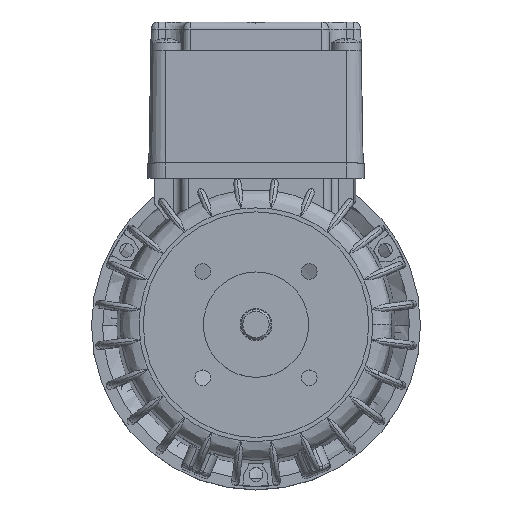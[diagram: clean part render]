
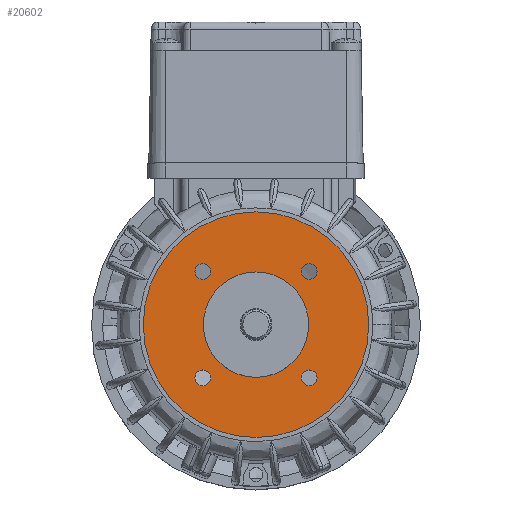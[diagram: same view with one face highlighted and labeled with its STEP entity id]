
A CAD part, top view. The second image highlights one B-rep face of the part: STEP entity #20602.
In plain terms, the highlighted planar face has unit normal (0, 0, -1).
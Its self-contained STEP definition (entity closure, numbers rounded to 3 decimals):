
#406 = CARTESIAN_POINT ( 'NONE',  ( -16.242, -14.142, -6. ) ) ;
#557 = CARTESIAN_POINT ( 'NONE',  ( -30., 0., -6. ) ) ;
#1909 = CARTESIAN_POINT ( 'NONE',  ( -12.042, -14.142, -6. ) ) ;
#2219 = CIRCLE ( 'NONE', #61576, 2.1 ) ;
#3162 = AXIS2_PLACEMENT_3D ( 'NONE', #9651, #44291, #14704 ) ;
#4971 = DIRECTION ( 'NONE',  ( 1., 0., 0. ) ) ;
#5027 = DIRECTION ( 'NONE',  ( 0., 0., 1. ) ) ;
#5030 = AXIS2_PLACEMENT_3D ( 'NONE', #28676, #28635, #28617 ) ;
#5044 = CARTESIAN_POINT ( 'NONE',  ( 14.142, 14.142, -6. ) ) ;
#6261 = CARTESIAN_POINT ( 'NONE',  ( 0., 0., -6. ) ) ;
#6883 = EDGE_CURVE ( 'NONE', #50258, #57351, #36805, .T. ) ;
#7792 = EDGE_CURVE ( 'NONE', #57997, #39685, #42530, .T. ) ;
#9500 = ORIENTED_EDGE ( 'NONE', *, *, #24018, .T. ) ;
#9651 = CARTESIAN_POINT ( 'NONE',  ( -14.142, -14.142, -6. ) ) ;
#11299 = DIRECTION ( 'NONE',  ( 1., 0., 0. ) ) ;
#12619 = ORIENTED_EDGE ( 'NONE', *, *, #7792, .T. ) ;
#13016 = DIRECTION ( 'NONE',  ( 1., 0., 0. ) ) ;
#13181 = DIRECTION ( 'NONE',  ( 0., 0., 1. ) ) ;
#13232 = CARTESIAN_POINT ( 'NONE',  ( -14.142, -14.142, -6. ) ) ;
#14188 = CIRCLE ( 'NONE', #35325, 2.1 ) ;
#14303 = EDGE_CURVE ( 'NONE', #32270, #18088, #14188, .T. ) ;
#14704 = DIRECTION ( 'NONE',  ( 1., 0., 0. ) ) ;
#16153 = CARTESIAN_POINT ( 'NONE',  ( 16.242, -14.142, -6. ) ) ;
#16201 = AXIS2_PLACEMENT_3D ( 'NONE', #57328, #56965, #56598 ) ;
#16889 = CIRCLE ( 'NONE', #32453, 30. ) ;
#17421 = CIRCLE ( 'NONE', #58398, 2.1 ) ;
#17555 = CARTESIAN_POINT ( 'NONE',  ( 14., 0., -6. ) ) ;
#17898 = ORIENTED_EDGE ( 'NONE', *, *, #48515, .T. ) ;
#18088 = VERTEX_POINT ( 'NONE', #57446 ) ;
#18675 = ORIENTED_EDGE ( 'NONE', *, *, #42415, .T. ) ;
#18874 = VERTEX_POINT ( 'NONE', #27124 ) ;
#19009 = CIRCLE ( 'NONE', #59502, 14. ) ;
#19520 = DIRECTION ( 'NONE',  ( 0., 0., 1. ) ) ;
#20602 = ADVANCED_FACE ( 'NONE', ( #28272, #29565, #22903, #32536, #35179, #33686 ), #26075, .T. ) ;
#22903 = FACE_BOUND ( 'NONE', #47316, .T. ) ;
#22984 = VERTEX_POINT ( 'NONE', #1909 ) ;
#23171 = ORIENTED_EDGE ( 'NONE', *, *, #14303, .T. ) ;
#23716 = AXIS2_PLACEMENT_3D ( 'NONE', #37223, #37008, #36798 ) ;
#24018 = EDGE_CURVE ( 'NONE', #43575, #18874, #45641, .T. ) ;
#24288 = EDGE_LOOP ( 'NONE', ( #17898, #12619 ) ) ;
#24361 = VERTEX_POINT ( 'NONE', #16153 ) ;
#24918 = DIRECTION ( 'NONE',  ( -1., 0., 0. ) ) ;
#24996 = DIRECTION ( 'NONE',  ( 0., 0., -1. ) ) ;
#25070 = CARTESIAN_POINT ( 'NONE',  ( 0., 14.75, -6. ) ) ;
#26075 = PLANE ( 'NONE',  #40990 ) ;
#26991 = CIRCLE ( 'NONE', #47570, 2.1 ) ;
#27124 = CARTESIAN_POINT ( 'NONE',  ( 12.042, 14.142, -6. ) ) ;
#27505 = EDGE_CURVE ( 'NONE', #24361, #33835, #17421, .T. ) ;
#28155 = EDGE_CURVE ( 'NONE', #18874, #43575, #45310, .T. ) ;
#28272 = FACE_BOUND ( 'NONE', #62338, .T. ) ;
#28617 = DIRECTION ( 'NONE',  ( 1., 0., 0. ) ) ;
#28635 = DIRECTION ( 'NONE',  ( 0., 0., 1. ) ) ;
#28676 = CARTESIAN_POINT ( 'NONE',  ( 14.142, 14.142, -6. ) ) ;
#29565 = FACE_OUTER_BOUND ( 'NONE', #24288, .T. ) ;
#31392 = ORIENTED_EDGE ( 'NONE', *, *, #32350, .T. ) ;
#31518 = CIRCLE ( 'NONE', #34151, 2.1 ) ;
#32270 = VERTEX_POINT ( 'NONE', #42353 ) ;
#32350 = EDGE_CURVE ( 'NONE', #18088, #32270, #2219, .T. ) ;
#32453 = AXIS2_PLACEMENT_3D ( 'NONE', #6261, #40989, #11299 ) ;
#32536 = FACE_BOUND ( 'NONE', #57861, .T. ) ;
#32721 = ORIENTED_EDGE ( 'NONE', *, *, #59229, .T. ) ;
#33686 = FACE_BOUND ( 'NONE', #42863, .T. ) ;
#33835 = VERTEX_POINT ( 'NONE', #61729 ) ;
#34151 = AXIS2_PLACEMENT_3D ( 'NONE', #13232, #13181, #13016 ) ;
#34239 = ORIENTED_EDGE ( 'NONE', *, *, #28155, .T. ) ;
#34367 = DIRECTION ( 'NONE',  ( 1., 0., 0. ) ) ;
#34380 = DIRECTION ( 'NONE',  ( 0., 0., 1. ) ) ;
#34435 = CARTESIAN_POINT ( 'NONE',  ( 14.142, -14.142, -6. ) ) ;
#35179 = FACE_BOUND ( 'NONE', #62817, .T. ) ;
#35325 = AXIS2_PLACEMENT_3D ( 'NONE', #41392, #41602, #46833 ) ;
#36798 = DIRECTION ( 'NONE',  ( -1., 0., 0. ) ) ;
#36805 = CIRCLE ( 'NONE', #23716, 14. ) ;
#37008 = DIRECTION ( 'NONE',  ( 0., 0., 1. ) ) ;
#37223 = CARTESIAN_POINT ( 'NONE',  ( 0., 0., -6. ) ) ;
#37928 = VERTEX_POINT ( 'NONE', #406 ) ;
#38541 = DIRECTION ( 'NONE',  ( 1., 0., 0. ) ) ;
#38555 = DIRECTION ( 'NONE',  ( 0., 0., 1. ) ) ;
#38626 = CARTESIAN_POINT ( 'NONE',  ( -14.142, 14.142, -6. ) ) ;
#39685 = VERTEX_POINT ( 'NONE', #42408 ) ;
#40989 = DIRECTION ( 'NONE',  ( 0., 0., -1. ) ) ;
#40990 = AXIS2_PLACEMENT_3D ( 'NONE', #25070, #24996, #24918 ) ;
#41392 = CARTESIAN_POINT ( 'NONE',  ( -14.142, 14.142, -6. ) ) ;
#41602 = DIRECTION ( 'NONE',  ( 0., 0., 1. ) ) ;
#42353 = CARTESIAN_POINT ( 'NONE',  ( -12.042, 14.142, -6. ) ) ;
#42408 = CARTESIAN_POINT ( 'NONE',  ( 30., 0., -6. ) ) ;
#42415 = EDGE_CURVE ( 'NONE', #33835, #24361, #26991, .T. ) ;
#42530 = CIRCLE ( 'NONE', #16201, 30. ) ;
#42863 = EDGE_LOOP ( 'NONE', ( #9500, #34239 ) ) ;
#43575 = VERTEX_POINT ( 'NONE', #51515 ) ;
#44191 = EDGE_CURVE ( 'NONE', #22984, #37928, #31518, .T. ) ;
#44233 = CIRCLE ( 'NONE', #3162, 2.1 ) ;
#44291 = DIRECTION ( 'NONE',  ( 0., 0., 1. ) ) ;
#45310 = CIRCLE ( 'NONE', #57729, 2.1 ) ;
#45641 = CIRCLE ( 'NONE', #5030, 2.1 ) ;
#46833 = DIRECTION ( 'NONE',  ( 1., 0., 0. ) ) ;
#47316 = EDGE_LOOP ( 'NONE', ( #58120, #56557 ) ) ;
#47570 = AXIS2_PLACEMENT_3D ( 'NONE', #57786, #57672, #57722 ) ;
#48515 = EDGE_CURVE ( 'NONE', #39685, #57997, #16889, .T. ) ;
#48971 = CARTESIAN_POINT ( 'NONE',  ( 0., 0., -6. ) ) ;
#50258 = VERTEX_POINT ( 'NONE', #52755 ) ;
#51515 = CARTESIAN_POINT ( 'NONE',  ( 16.242, 14.142, -6. ) ) ;
#52080 = ORIENTED_EDGE ( 'NONE', *, *, #44191, .T. ) ;
#52755 = CARTESIAN_POINT ( 'NONE',  ( -14., 0., -6. ) ) ;
#52888 = ORIENTED_EDGE ( 'NONE', *, *, #27505, .T. ) ;
#53646 = DIRECTION ( 'NONE',  ( -1., 0., 0. ) ) ;
#53975 = EDGE_CURVE ( 'NONE', #57351, #50258, #19009, .T. ) ;
#56557 = ORIENTED_EDGE ( 'NONE', *, *, #53975, .T. ) ;
#56598 = DIRECTION ( 'NONE',  ( 1., 0., 0. ) ) ;
#56965 = DIRECTION ( 'NONE',  ( 0., 0., -1. ) ) ;
#57328 = CARTESIAN_POINT ( 'NONE',  ( 0., 0., -6. ) ) ;
#57351 = VERTEX_POINT ( 'NONE', #17555 ) ;
#57446 = CARTESIAN_POINT ( 'NONE',  ( -16.242, 14.142, -6. ) ) ;
#57672 = DIRECTION ( 'NONE',  ( 0., 0., 1. ) ) ;
#57722 = DIRECTION ( 'NONE',  ( 1., 0., 0. ) ) ;
#57729 = AXIS2_PLACEMENT_3D ( 'NONE', #5044, #5027, #4971 ) ;
#57786 = CARTESIAN_POINT ( 'NONE',  ( 14.142, -14.142, -6. ) ) ;
#57861 = EDGE_LOOP ( 'NONE', ( #52080, #32721 ) ) ;
#57997 = VERTEX_POINT ( 'NONE', #557 ) ;
#58120 = ORIENTED_EDGE ( 'NONE', *, *, #6883, .T. ) ;
#58398 = AXIS2_PLACEMENT_3D ( 'NONE', #34435, #34380, #34367 ) ;
#59229 = EDGE_CURVE ( 'NONE', #37928, #22984, #44233, .T. ) ;
#59502 = AXIS2_PLACEMENT_3D ( 'NONE', #48971, #19520, #53646 ) ;
#61576 = AXIS2_PLACEMENT_3D ( 'NONE', #38626, #38555, #38541 ) ;
#61729 = CARTESIAN_POINT ( 'NONE',  ( 12.042, -14.142, -6. ) ) ;
#62338 = EDGE_LOOP ( 'NONE', ( #23171, #31392 ) ) ;
#62817 = EDGE_LOOP ( 'NONE', ( #52888, #18675 ) ) ;
